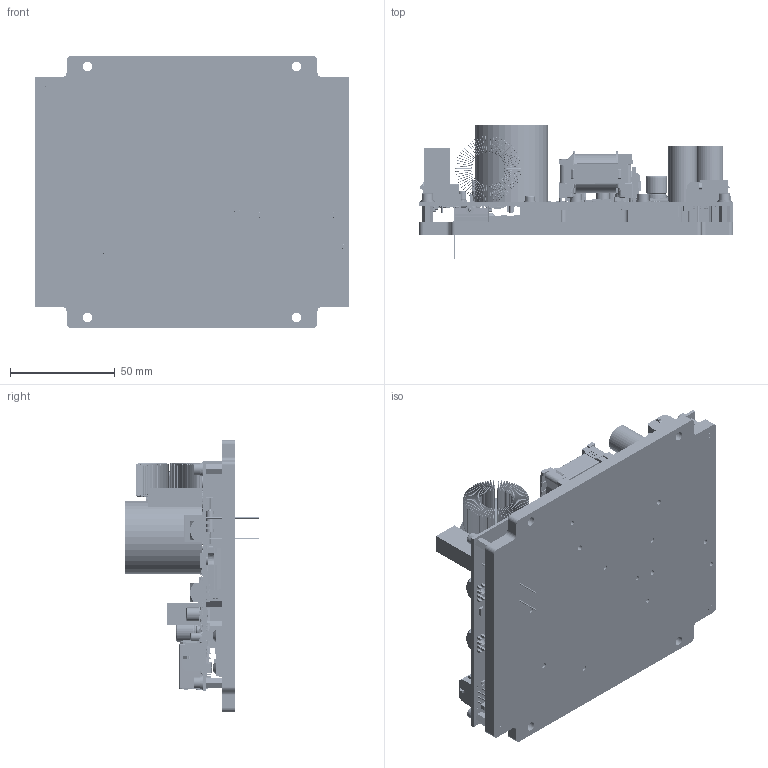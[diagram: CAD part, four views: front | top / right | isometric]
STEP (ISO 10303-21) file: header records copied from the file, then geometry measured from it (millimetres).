
FILE_DESCRIPTION (( 'STEP AP214' ), '1' );
FILE_NAME ('478.00.00.000-D01_SDC-200_v.02.STEP', '2026-02-20T15:52:17', ( '' ), ( '' ), 'SwSTEP 2.0', 'SolidWorks 2019', '' );
FILE_SCHEMA (( 'AUTOMOTIVE_DESIGN' ));
Length unit declared in the file: millimetre
Products named in the file (956): 7344393184; Solid16-1; Solid16-2; C115; Solid2-46; C94; Solid1-97; 7509175760; 7743073568; Solid4-28; Solid6-3; 7268124416; Q10; Solid51; Solid5-18; C119; C67; Solid9-1; Solid18; Solid20-1; C101; 妈眚 󉱭6 DIN912; R73; Solid4-11; R46; Solid11-4; Solid1-6; Solid3-13; Solid1-60; 7344393424; Q12; Solid19; Solid22-2; Ïîäëîæêà êåðàìè÷åñêàÿ òåïëîïðîâîäÿùàÿ KC304000-TO247.063A; Solid37-1; Solid1-25; X5; C70; Solid1-95; Solid1-125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
Assembly tree (1610 placements, depth 6):
  6vert-Part-1
  MF3-4MA-Part-1
  478.00.00.000-D01_SDC-200_v.02
    PCB_R
    478.00.00.006-B01_砱謽闀豂膹馯罻
    478.00.00.009-B01_砱謽闀豂膹馯罻
    478.00.00.001-D01_冓儰僗闉
    479.00.00.105-A01_冓儰僗闉
    479.00.00.106-A01_冓儰僗闉
    479.00.00.111-B01_砱謽闀豂膹馯罻  x2
    479.00.00.113-B01_砱謽闀豂膹馯罻  x2
    Ïîäëîæêà êåðàìè÷åñêàÿ òåïëîïðîâîäÿùàÿ KC304000-TO247.063A
    妈眚 󉱴 ISO7380 (2018)  x2
    栺鍣罻 PCHSN-8  x4
    ﾘ琺矜 ﾌ3 DIN125 (2018)  x5
    ﾘ琺矜 ﾌ3 DIN127 (2018)  x5
    妈眚 󉱴 DIN912 (2018)  x4
    妈眚 󉱭2 DIN912
    Øàéáà ïîëèàìèäíàÿ Ì2,5  x3
    Âèíò Ì2,5õ14 DIN912  x3
    ﾘ琺矜 ﾌ3 DIN125  x3
    ﾘ琺矜 ﾌ3 DIN127  x3
    妈眚 󉱭6 DIN912  x3
    妈眚 󉱭0 DIN7991  x4
    秮鳧賥嚦闉 (SDC-200A HV)
    _SDC-200A HV Rev C
      Board
        Solid1
      U5
        7268113136
          Solid1-1
          Solid1-2  x5
      C123
        7273586992
          Solid1-3
      X6
        6vert
          Solid1-4
      C14
        Solid1-5
        Solid2
        Solid3
      R68
        Solid1-6
      R75
        7743068688
          Solid1-7
          Solid1-8
          Solid2-1
      R59
        Solid1-9
      D16
        7268120416
          Solid1-10
      C119
        Solid1-11
        Solid2-2
        Solid3-1
      C86
        Solid1-11
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Bounding box: 150 x 64.1 x 130 mm (x, y, z)
Volume: 265641 mm3; surface area: 190830.7 mm2
Topology: 1325 solids, 1329 shells, 53982 faces, 135880 edges, 84399 vertices
Faces by surface type: plane 23628, bspline 17392, cylinder 10250, sphere 2106, torus 459, cone 147
Full cylindrical faces by diameter (mm): 0.08 x16, 0.1 x2, 0.104 x3, 0.156 x1, 0.2 x3, 0.305 x2, 0.381 x2, 0.4 x12, 0.437 x1, 0.45 x1, 0.488 x7, 0.489 x1, 0.493 x3, 0.5 x5, 0.504 x2, 0.55 x3, 0.575 x2, 0.65 x11, 0.75 x4, 0.76 x7, 0.762 x6, 0.78 x2, 0.8 x6, 0.81 x2, 0.83 x1, 0.85 x10, 0.86 x12, 0.9 x6, 1 x45, 1.01 x2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
Entity records: 465753 total; most frequent: CARTESIAN_POINT 106415, DIRECTION 64699, ORIENTED_EDGE 62918, EDGE_CURVE 31461, LINE 23169, VECTOR 23169, AXIS2_PLACEMENT_3D 20765, VERTEX_POINT 20509
